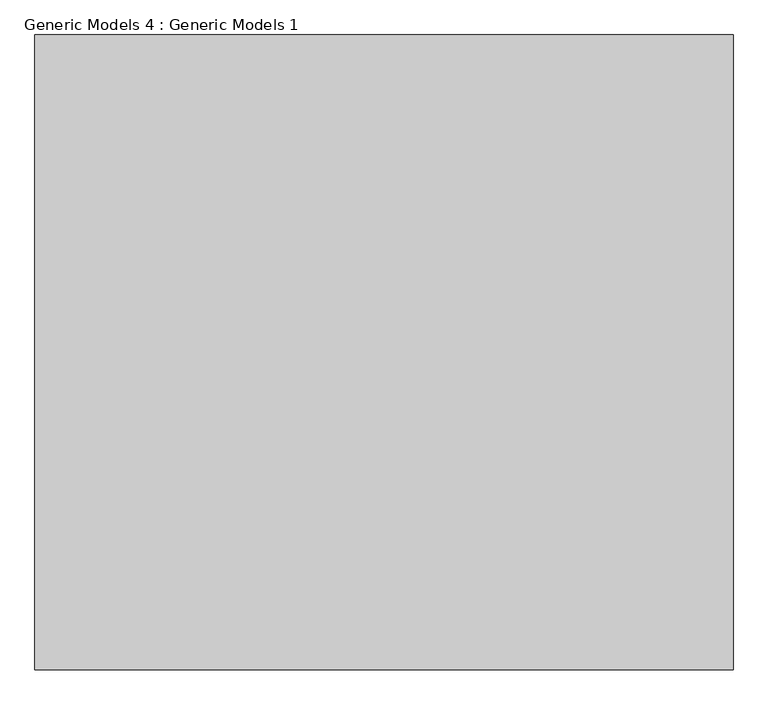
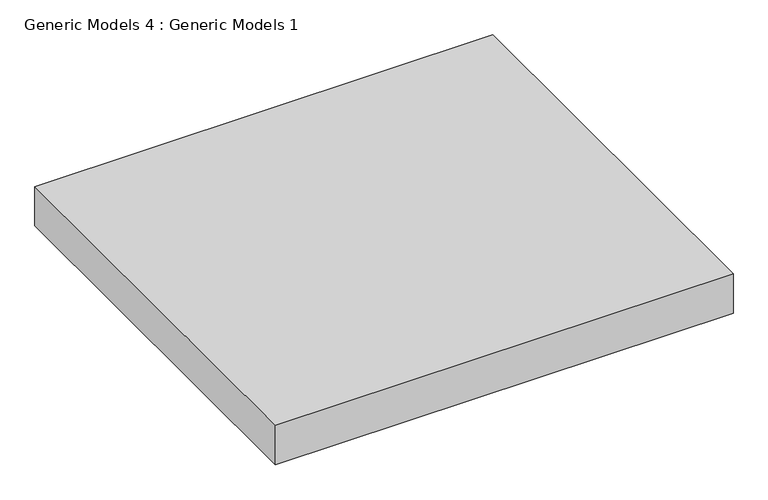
"""IFC4 building model written with IfcOpenShell, lengths in millimetres: proxy geometry, Generic Models 4 : Generic Models 1."""

from ifc_helpers import new_model, si_unit, origin, origin_with_axes, place, context, project, spatial, polyline, outline, extrude, source, transform, mapped, element, save


def generic_models_4_generic_models_1_a14395d2(model_context):
    return source(origin(), model_context, "Body", "SweptSolid", [
        extrude(outline(polyline([(-12062.8148829, -2714.1210758), (-12062.8148829, -1714.1210758), (-10962.8148829, -1714.1210758), (-10962.8148829, -2714.1210758), (-12062.8148829, -2714.1210758)])), origin_with_axes(), (0.0, 0.0, 1.0), 100.0),
    ])


if __name__ == "__main__":
    model = new_model("IFC4")
    model_context = context("Model", 3, world=origin())
    ifc_project = project(units=[si_unit("LENGTHUNIT", "METRE", prefix="MILLI")], contexts=[model_context])
    site = spatial("IfcSite", under=ifc_project)
    building = spatial("IfcBuilding", under=site)
    placement = place(None, origin())
    generic_models_4_generic_models_1_shape = generic_models_4_generic_models_1_a14395d2(model_context)
    element("IfcBuildingElementProxy", 1, Name="Generic Models 4 : Generic Models 1", ObjectType="Generic Models 4 : Generic Models 1", at=placement, inside=building, context=model_context, shape_type="MappedRepresentation", body=[
        mapped(generic_models_4_generic_models_1_shape, transform((0.0, 0.0, 0.0), x_axis=(1.0, 0.0, 0.0), y_axis=(0.0, 1.0, 0.0), z_axis=(0.0, 0.0, 1.0))),
    ])
    save(model, "model.ifc")
